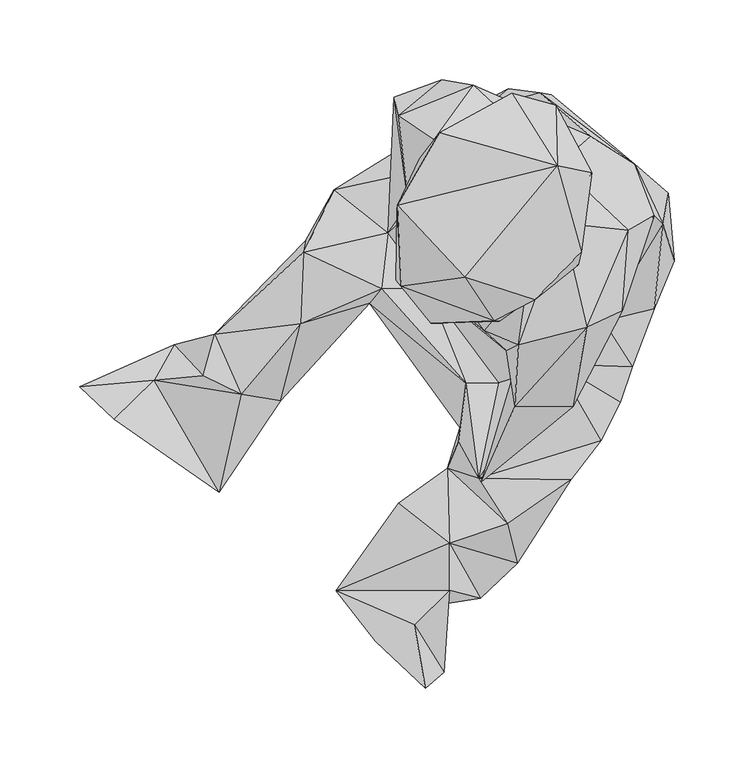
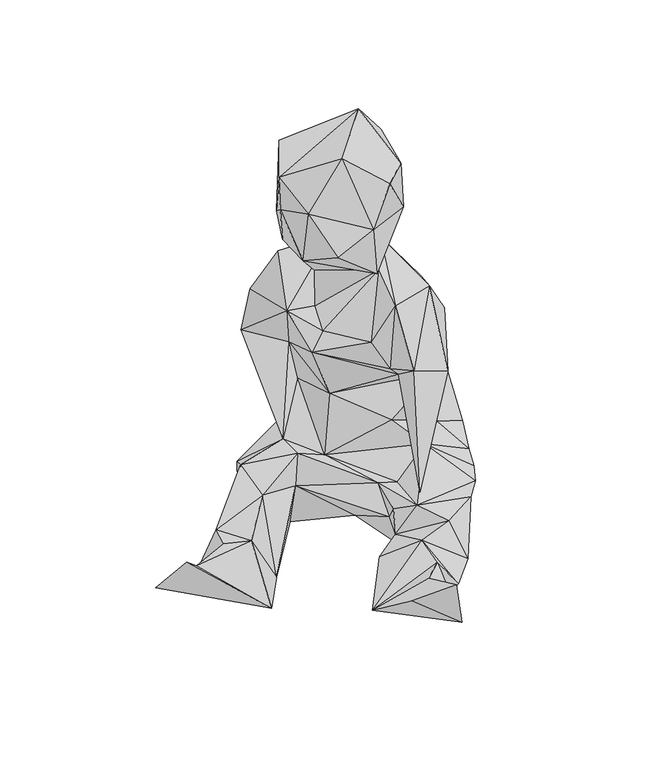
"""IFC4 building model written with IfcOpenShell, lengths in millimetres: geographic element geometry, Enscape AssetDefinition - Maarten 001 Sitting : Enscape AssetDefinition - Maarten 001 Sitting."""

import ifcopenshell
import ifcopenshell.guid

model = None  # the IFC model being written
_history = None  # IfcOwnerHistory: only IFC2X3 demands one
_inside = {}  # id of a spatial element -> (the spatial element, [elements in it])
_under = {}  # id of a project, library or spatial element -> (it, [spatial elements below it])
_declared = {}  # id of a project -> (the project, [libraries it declares])
_typed = {}  # id of a type object -> (the type object, [elements of that type])
_made_of = {}  # id of a material, layer set ... -> (it, [elements and type objects made of it])


def new_model(schema):
    """Start an empty IFC model of exactly this schema.

    Asked for "IFC4X3", IfcOpenShell would pick the latest addendum, in which some entities
    have other attributes; the version numbers below select the first issue.
    IFC2X3 requires an IfcOwnerHistory on every rooted entity: one is made here for all.
    """
    global model, _history
    if schema == "IFC4X3":
        model = ifcopenshell.file(schema_version=(4, 3, 0, 0))
    else:
        model = ifcopenshell.file(schema=schema)
    _inside.clear()
    _under.clear()
    _declared.clear()
    _typed.clear()
    _made_of.clear()
    _history = None
    if model.schema == "IFC2X3":
        org = make("IfcOrganization", Name="unknown")
        user = make(
            "IfcPersonAndOrganization",
            ThePerson=make("IfcPerson", FamilyName="unknown"),
            TheOrganization=org,
        )
        app = make(
            "IfcApplication",
            ApplicationDeveloper=org,
            Version="unknown",
            ApplicationFullName="unknown",
            ApplicationIdentifier="unknown",
        )
        _history = make(
            "IfcOwnerHistory",
            OwningUser=user,
            OwningApplication=app,
            ChangeAction="ADDED",
            CreationDate=0,
        )
    return model


def make(cls, **values):
    """One entity of the class cls with the attributes given. An attribute that is None is left unset."""
    return model.create_entity(
        cls, **{name: value for name, value in values.items() if value is not None}
    )


def rooted(cls, **values):
    """An entity with a GlobalId (a new one), such as an element, a storey or a relation."""
    return make(cls, GlobalId=ifcopenshell.guid.new(), OwnerHistory=_history, **values)


def si_unit(unit_type, name, prefix=None):
    """IfcSIUnit, for example si_unit("LENGTHUNIT", "METRE", prefix="MILLI")."""
    return make("IfcSIUnit", UnitType=unit_type, Prefix=prefix, Name=name)


def assignment(units):
    """IfcUnitAssignment: the units of a project."""
    return None if units is None else make("IfcUnitAssignment", Units=units)


def point(xyz):
    """IfcCartesianPoint."""
    return None if xyz is None else make("IfcCartesianPoint", Coordinates=xyz)


def direction(xyz):
    """IfcDirection."""
    return None if xyz is None else make("IfcDirection", DirectionRatios=xyz)


def frame(location, z_axis=None, x_axis=None):
    """IfcAxis2Placement3D, a coordinate frame: its origin and axes. An axis left out is left unset."""
    return make(
        "IfcAxis2Placement3D",
        Location=point(location),
        Axis=direction(z_axis),
        RefDirection=direction(x_axis),
    )


def origin():
    """The frame at (0, 0, 0) with its axes left unset."""
    return frame((0.0, 0.0, 0.0))


def place(relative_to, where):
    """IfcLocalPlacement: puts the frame where relative to a parent placement (None: the world)."""
    return make(
        "IfcLocalPlacement", PlacementRelTo=relative_to, RelativePlacement=where
    )


def context(
    kind, dimensions, precision=None, world=None, true_north=None, identifier=None
):
    """IfcGeometricRepresentationContext, for example the 3D "Model" context."""
    return make(
        "IfcGeometricRepresentationContext",
        ContextIdentifier=identifier,
        ContextType=kind,
        CoordinateSpaceDimension=dimensions,
        Precision=precision,
        WorldCoordinateSystem=world,
        TrueNorth=true_north,
    )


def project(units=None, contexts=None):
    """IfcProject with its units and contexts."""
    return rooted(
        "IfcProject",
        Name="project",
        RepresentationContexts=contexts,
        UnitsInContext=assignment(units),
    )


def spatial(cls, under=None, at=None, **own):
    """A site, building, storey or space (cls), placed at a placement, below another one or the project."""
    s = rooted(cls, ObjectPlacement=at, **own)
    if under is not None:
        _under.setdefault(under.id(), (under, []))[1].append(s)
    return s


def point_list(points):
    """IfcCartesianPointList2D or 3D."""
    cls = (
        "IfcCartesianPointList2D" if len(points[0]) == 2 else "IfcCartesianPointList3D"
    )
    return make(cls, CoordList=points)


def triangles(points, corners, closed=None, point_numbers=None):
    """IfcTriangulatedFaceSet: each triangle names its three corners, points numbered from 1."""
    return make(
        "IfcTriangulatedFaceSet",
        Coordinates=point_list(points),
        Closed=closed,
        CoordIndex=corners,
        PnIndex=point_numbers,
    )


def shape(context_of_items, identifier, shape_type, items):
    """IfcShapeRepresentation: the items that make up one representation, for example the "Body"."""
    return make(
        "IfcShapeRepresentation",
        ContextOfItems=context_of_items,
        RepresentationIdentifier=identifier,
        RepresentationType=shape_type,
        Items=items,
    )


def source(mapping_origin, context_of_items, identifier, shape_type, items):
    """IfcRepresentationMap: a shape defined once, which mapped items show again and again."""
    return make(
        "IfcRepresentationMap",
        MappingOrigin=mapping_origin,
        MappedRepresentation=shape(context_of_items, identifier, shape_type, items),
    )


def transform(
    local_origin,
    x_axis=None,
    y_axis=None,
    z_axis=None,
    scale=None,
    scale2=None,
    scale3=None,
    uniform=True,
):
    """IfcCartesianTransformationOperator3D, or its non-uniform kind. x_axis, y_axis, z_axis: its Axis1, 2, 3."""
    if uniform:
        return make(
            "IfcCartesianTransformationOperator3D",
            Axis1=direction(x_axis),
            Axis2=direction(y_axis),
            LocalOrigin=point(local_origin),
            Scale=scale,
            Axis3=direction(z_axis),
        )
    return make(
        "IfcCartesianTransformationOperator3DnonUniform",
        Axis1=direction(x_axis),
        Axis2=direction(y_axis),
        LocalOrigin=point(local_origin),
        Scale=scale,
        Axis3=direction(z_axis),
        Scale2=scale2,
        Scale3=scale3,
    )


def mapped(mapping_source, mapping_target):
    """IfcMappedItem: shows the shape of a source again, moved by a transform."""
    return make(
        "IfcMappedItem", MappingSource=mapping_source, MappingTarget=mapping_target
    )


def made_of(thing, what):
    """Note that an element or type object is made of a material, layer set ...; save() writes the relation."""
    if what is not None:
        _made_of.setdefault(what.id(), (what, []))[1].append(thing)
    return thing


def element(
    cls,
    number,
    at=None,
    inside=None,
    cuts=None,
    type_object=None,
    material=None,
    context=None,
    identifier="Body",
    shape_type=None,
    held_by="IfcProductDefinitionShape",
    body=None,
    shapes=None,
    **own,
):
    """One element of the class cls, such as IfcWall. Its Tag is "e" and its number.

    at: its placement. inside: the storey or other place that contains it. cuts: it is an
    opening in that element (IfcRelVoidsElement). A single representation is given by context,
    identifier, shape_type and body (its items); several are given by shapes. held_by: the class
    of the entity that holds the representations. save() writes the other relations.
    """
    e = rooted(cls, Tag="e%d" % number, ObjectPlacement=at, **own)
    if body is not None:
        shapes = [shape(context, identifier, shape_type, body)]
    if shapes is not None:
        e.Representation = make(held_by, Representations=shapes)
    if inside is not None:
        _inside.setdefault(inside.id(), (inside, []))[1].append(e)
    if cuts is not None:
        rooted(
            "IfcRelVoidsElement", RelatingBuildingElement=cuts, RelatedOpeningElement=e
        )
    if type_object is not None:
        _typed.setdefault(type_object.id(), (type_object, []))[1].append(e)
    return made_of(e, material)


def aggregate(whole, parts):
    """IfcRelAggregates: a whole, such as a stair, and the parts it consists of."""
    return rooted("IfcRelAggregates", RelatingObject=whole, RelatedObjects=parts)


def save(model, path):
    """Write the relations noted so far, then the file.

    IfcRelAggregates (storeys below a building ...), IfcRelContainedInSpatialStructure (elements
    in a storey), IfcRelDefinesByType, IfcRelAssociatesMaterial and IfcRelDeclares: one each for
    every whole, place, type object, material and project.
    """
    for whole, parts in _under.values():
        aggregate(whole, parts)
    for where, things in _inside.values():
        rooted(
            "IfcRelContainedInSpatialStructure",
            RelatedElements=things,
            RelatingStructure=where,
        )
    for kind, things in _typed.values():
        rooted("IfcRelDefinesByType", RelatedObjects=things, RelatingType=kind)
    for what, things in _made_of.values():
        rooted("IfcRelAssociatesMaterial", RelatedObjects=things, RelatingMaterial=what)
    for by, libraries in _declared.values():
        rooted("IfcRelDeclares", RelatingContext=by, RelatedDefinitions=libraries)
    model.write(path)


def geographic_element_93ed5cb6(model_context):
    return source(origin(), model_context, "Body", "Tessellation", [
        triangles([(115.849315, 147.3319863, 207.7868627), (27.362951, 225.2241886, 120.8900138), (91.8724627, 206.3846954, 170.2438963), (59.9776163, 233.6746721, 141.5024548), (119.9079062, 188.9276214, 140.1121145), (40.3038989, 236.1713583, 60.2379383), (-8.2256488, 186.0010195, 71.8319436), (67.4104747, 232.382945, 47.097802), (140.9068698, 170.5811395, 62.8450603), (132.245389, 156.8217505, 161.9847347), (33.8610373, 224.8692321, 17.4827072), (119.2018992, 158.3185704, 1.0215503), (144.6578218, 128.2262393, 38.5171711), (133.7678615, 120.957061, 16.8299411), (137.4694978, 151.4753835, 121.3120447), (92.9768466, 41.5798566, 22.7778066), (132.2098988, 97.9011917, 66.1246611), (110.6469072, 39.1423328, 56.895219), (118.1665336, 61.3285104, 60.5081162), (100.0152796, 90.2080112, 80.8996768), (98.5894491, 15.0491302, 58.4729025), (70.7078434, 62.8884442, 82.0040516), (34.0838843, 51.39699, 57.9956515), (46.5002549, 83.331278, 105.4563265), (-10.1997249, 110.8401639, 68.4773927), (9.8585518, 23.2412526, 43.6683102), (8.8054474, 14.3293125, 58.6543322), (13.6154094, 51.148504, 64.1801714), (21.3145079, -8.5293531, 71.7491134), (-39.7300195, 110.558159, 80.9470031), (-90.5846779, 88.3936689, 63.6181235), (-103.066129, 40.1816271, 3.3151078), (-144.6637353, 82.0257436, 46.7822644), (-35.3420856, 145.7976959, 74.3404569), (-88.5632715, 133.3339944, 70.7334732), (-69.299758, 172.9200411, 44.3467163), (-151.7534552, 55.6981537, 49.4820769), (-138.8184162, 80.2488808, 4.0763404), (-127.9343694, 44.3092458, 51.365433), (-229.6358016, 48.9929897, 30.3842146), (-182.7726919, 52.9924231, 36.5549317), (-170.0190735, 75.328478, 11.4776493), (-45.238109, 115.188654, 1.0432433), (-141.7588254, -17.4649587, 15.9346049), (-207.7572679, 28.5028274, 64.0263472), (-4.4944264, 212.8729076, 21.4367775), (-47.0189187, 101.4568977, 51.793382), (51.4758732, 43.8556579, 7.9554703), (8.4268033, 85.9738947, 7.8470035), (18.2498558, 15.0925165, 11.4441223), (-87.2735156, 140.5538662, 23.5942607), (-1.6624841, 242.0344271, 119.503625), (-0.4101978, 178.6154965, 112.7373319), (-31.6088946, 230.8249914, 146.8330433), (-22.2966155, 160.5095886, 208.0668965), (-28.8045622, 219.2467555, 199.9497139), (18.2183034, 238.3761838, 191.5741895), (-6.6183829, 204.3218671, 244.8565295), (71.7589693, 188.8112768, 233.3749266), (89.7642883, 86.1316612, 242.47815), (93.9609253, 86.0429221, 141.516253), (112.076671, 96.6982038, 203.0498517), (1.0038013, 121.0675012, 129.0564939), (-18.924315, 118.8764921, 184.7822531), (48.5611029, 73.7586837, 162.8840076), (-0.7651766, 194.0136845, 144.6183801), (38.9056785, 71.3606015, 174.0342899), (2.5558476, 150.8028955, 211.259743), (-4.1473358, 123.982276, 201.1507125), (25.2685771, 83.9958813, 201.7837771), (46.5751958, 75.4132793, 241.5118209), (74.1590272, 151.7573884, 264.4927583), (91.1151779, 178.2723307, 284.9414919), (68.8836406, 130.6696676, 289.9999586), (86.1099692, 133.6515078, 356.1758975), (84.1615326, 125.4850186, 311.8074938), (56.9918474, 103.4822464, 360.9562743), (92.9295203, 183.5161785, 362.2401349), (70.985906, 187.6990082, 391.358234), (70.177348, 225.7862728, 299.6908642), (42.575767, 233.3335047, 318.7355229), (12.8226242, 117.5808226, 396.2451087), (-29.4967688, 162.9688135, 362.77455), (31.0468422, 90.4841027, 325.1408732), (-3.1159254, 208.4751201, 368.2372979), (-29.8478034, 160.0579991, 327.349641), (-15.6742874, 192.1894863, 301.3316616), (-16.9246028, 178.6588805, 277.4692191), (-27.1696829, 111.8932701, 350.2359258), (-8.3676397, 88.6559621, 307.8711788), (34.6242424, 90.0108031, 273.588097), (1.5796558, 150.5110255, 252.12767), (-30.4650713, 115.9005836, 295.7210302), (52.4974224, 116.8905759, 255.5354562), (44.1179557, 192.1736987, 253.5258768), (44.3762975, 36.4780196, 190.9431234), (80.8720622, 36.2354472, 177.6530916), (23.3773294, -10.990539, 87.5732793), (1.8340574, -2.2600319, 41.6133802), (39.6471939, -37.2017808, 65.0518387), (79.5724504, -9.7264196, 61.8708374), (46.03484, -62.1074917, 34.1884042), (-28.7789233, -24.4915669, 40.2269868), (3.2381954, -49.6201226, 62.9278859), (-7.6261282, -88.740768, 6.6203552), (22.6397609, -84.057015, 26.9783928), (-18.7645762, -100.8908984, 58.255969), (3.224391, -79.0163161, 55.7494223), (-68.0888808, -79.2983211, 25.2744929), (4.2301646, -70.5678174, -0.8046187), (-20.8116203, -45.4471533, 3.0212642), (-43.275865, -111.2562814, 47.1490752), (-11.8937633, -140.8398317, 72.3525741), (-0.1341031, -130.760387, 18.9736193)], [[112, 114, 113], [113, 107, 112], [113, 114, 107], [109, 112, 107], [109, 114, 112], [103, 111, 109], [103, 99, 111], [110, 99, 50], [99, 110, 111], [110, 109, 111], [114, 109, 105], [109, 110, 105], [108, 114, 105], [108, 109, 107], [107, 114, 108], [106, 108, 105], [110, 106, 105], [106, 110, 50], [106, 104, 108], [109, 108, 104], [109, 104, 103], [103, 104, 99], [104, 106, 102], [50, 102, 106], [48, 101, 50], [102, 50, 101], [100, 104, 102], [99, 104, 100], [101, 100, 102], [100, 29, 99], [29, 100, 101], [99, 29, 27], [26, 99, 27], [26, 50, 99], [65, 97, 98], [97, 96, 98], [96, 65, 98], [90, 91, 84], [95, 68, 92], [94, 92, 68], [92, 88, 95], [91, 93, 94], [92, 93, 88], [93, 91, 90], [94, 93, 92], [89, 93, 90], [84, 89, 90], [88, 93, 86], [86, 93, 89], [88, 86, 87], [81, 88, 87], [95, 88, 81], [81, 87, 85], [86, 83, 87], [83, 85, 87], [86, 89, 83], [89, 84, 82], [82, 83, 89], [82, 84, 77], [82, 77, 75], [85, 83, 79], [82, 75, 79], [82, 79, 83], [79, 81, 85], [81, 79, 80], [95, 81, 80], [73, 95, 80], [75, 78, 79], [78, 80, 79], [78, 73, 80], [76, 77, 84], [75, 76, 78], [76, 84, 91], [75, 77, 76], [76, 91, 74], [91, 94, 74], [76, 74, 72], [95, 73, 72], [78, 72, 73], [76, 72, 78], [74, 94, 72], [71, 72, 94], [65, 96, 67], [71, 67, 96], [71, 70, 67], [71, 94, 70], [70, 94, 69], [94, 68, 69], [68, 55, 69], [68, 95, 55], [64, 67, 70], [69, 55, 64], [70, 69, 64], [67, 64, 65], [66, 64, 55], [66, 53, 63], [25, 63, 53], [63, 65, 64], [66, 63, 64], [25, 24, 63], [63, 61, 65], [63, 24, 61], [20, 61, 24], [10, 61, 20], [62, 65, 61], [97, 65, 62], [61, 10, 62], [71, 60, 72], [71, 96, 60], [60, 96, 97], [60, 97, 62], [62, 10, 1], [1, 60, 62], [60, 1, 72], [59, 95, 72], [72, 1, 59], [95, 59, 58], [95, 58, 55], [58, 59, 57], [55, 58, 56], [58, 57, 56], [57, 52, 56], [54, 56, 52], [54, 66, 55], [54, 55, 56], [34, 53, 66], [54, 34, 66], [34, 25, 53], [7, 54, 52], [34, 7, 36], [7, 34, 54], [51, 36, 46], [7, 46, 36], [49, 50, 26], [48, 50, 49], [49, 46, 48], [26, 47, 49], [43, 46, 49], [43, 49, 47], [43, 51, 46], [41, 44, 39], [45, 44, 41], [40, 44, 45], [40, 45, 41], [44, 40, 32], [39, 44, 32], [32, 51, 43], [32, 43, 47], [32, 38, 51], [42, 38, 32], [42, 40, 41], [40, 42, 32], [41, 39, 37], [41, 37, 42], [38, 42, 33], [37, 39, 33], [38, 33, 51], [37, 33, 42], [51, 35, 36], [35, 34, 36], [51, 33, 35], [31, 35, 33], [31, 32, 47], [33, 39, 31], [31, 39, 32], [31, 30, 35], [35, 30, 34], [34, 30, 25], [30, 31, 47], [28, 27, 29], [47, 28, 30], [27, 28, 26], [28, 47, 26], [30, 28, 25], [28, 23, 25], [29, 23, 28], [24, 25, 22], [22, 20, 24], [23, 22, 25], [22, 23, 29], [48, 21, 101], [21, 29, 101], [29, 21, 22], [21, 18, 22], [19, 22, 18], [22, 19, 20], [18, 16, 19], [21, 48, 16], [18, 21, 16], [16, 48, 14], [20, 19, 17], [19, 16, 17], [17, 16, 14], [20, 15, 10], [20, 17, 15], [17, 14, 13], [13, 15, 17], [15, 13, 9], [12, 13, 14], [14, 48, 12], [13, 12, 9], [48, 46, 11], [48, 11, 12], [6, 11, 46], [46, 7, 6], [8, 11, 6], [12, 8, 9], [12, 11, 8], [5, 10, 15], [5, 15, 9], [9, 8, 5], [8, 6, 4], [5, 8, 4], [2, 4, 6], [6, 7, 2], [7, 52, 2], [57, 2, 52], [3, 10, 5], [3, 5, 4], [2, 3, 4], [57, 3, 2], [3, 1, 10], [59, 3, 57], [3, 59, 1]]),
    ])


if __name__ == "__main__":
    model = new_model("IFC4")
    model_context = context("Model", 3, world=origin())
    ifc_project = project(units=[si_unit("LENGTHUNIT", "METRE", prefix="MILLI")], contexts=[model_context])
    site = spatial("IfcSite", under=ifc_project)
    building = spatial("IfcBuilding", under=site)
    placement = place(None, origin())
    geographic_element_shape = geographic_element_93ed5cb6(model_context)
    element("IfcGeographicElement", 1, ObjectType="Enscape AssetDefinition - Maarten 001 Sitting : Enscape AssetDefinition - Maarten 001 Sitting", at=placement, inside=building, context=model_context, shape_type="MappedRepresentation", body=[
        mapped(geographic_element_shape, transform((0.0, 0.0, 0.0), x_axis=(1.0, 0.0, 0.0), y_axis=(0.0, 1.0, 0.0), z_axis=(0.0, 0.0, 1.0))),
    ])
    save(model, "model.ifc")
